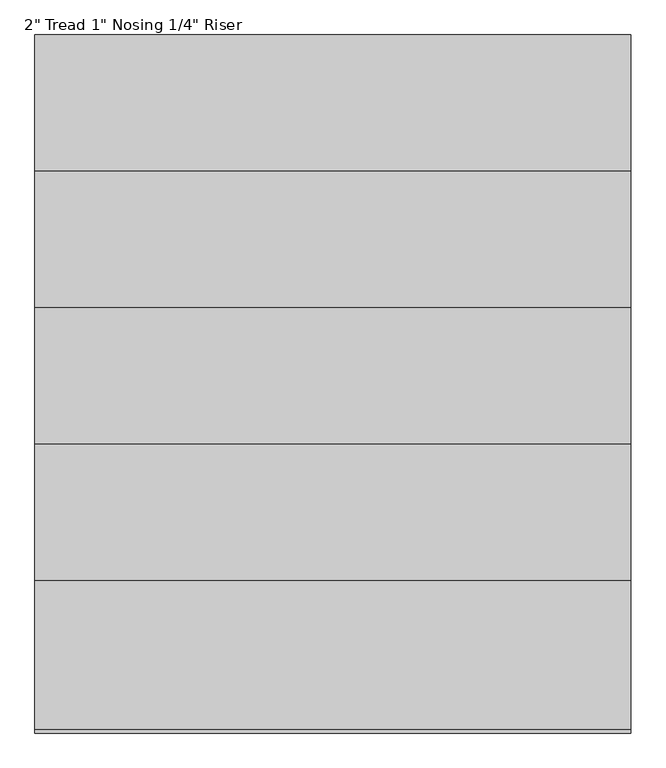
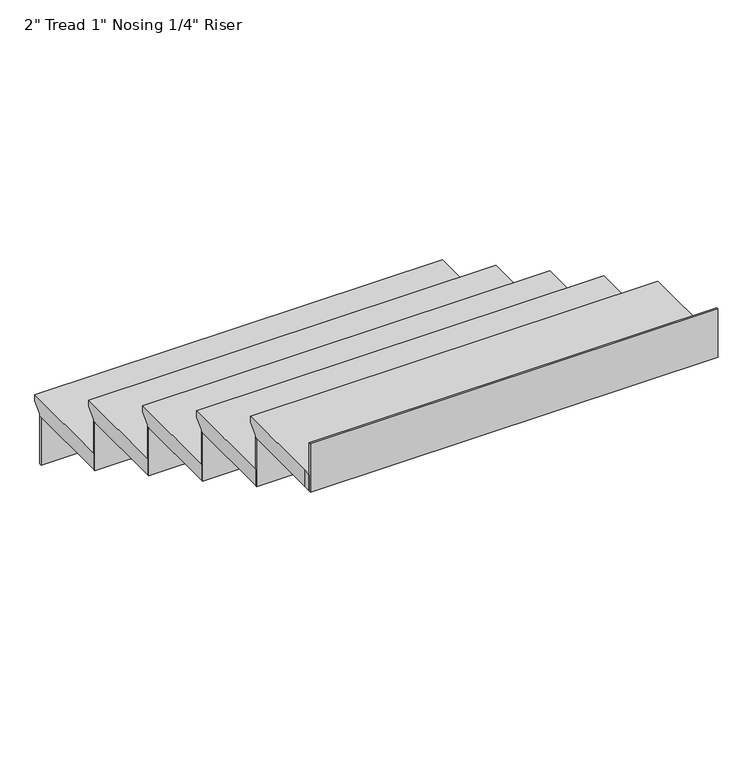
"""IFC4 building model written with IfcOpenShell, lengths in millimetres: stair flight geometry."""

from ifc_helpers import new_model, si_unit, origin, place, context, project, spatial, faceted_brep, source, transform, mapped, element, save


def stair_flight_300c26f1(model_context):
    return source(origin(), model_context, "Body", "Brep", [
        faceted_brep([(18450.2726301, 7776.9746638, 6534.15), (18450.2726301, 7776.9746638, 6553.2), (19669.4726301, 7776.9746638, 6553.2), (19669.4726301, 7776.9746638, 6534.15), (18450.2726301, 7751.5746638, 6508.75), (19669.4726301, 7751.5746638, 6508.75), (18450.2726301, 7472.1746638, 6553.2), (19669.4726301, 7472.1746638, 6553.2), (19669.4726301, 7751.5746638, 6502.4), (19669.4726301, 7472.1746638, 6502.4), (18450.2726301, 7472.1746638, 6502.4), (18450.2726301, 7751.5746638, 6502.4)], [[[0, 1, 2, 3]], [[4, 0, 3, 5]], [[2, 1, 6, 7]], [[8, 9, 10, 11]], [[2, 7, 9, 8, 5, 3]], [[8, 11, 4, 5]], [[6, 1, 0, 4, 11, 10]], [[7, 6, 10, 9]]]),
        faceted_brep([(18450.2726301, 7751.5746638, 6502.4), (18450.2726301, 7751.5746638, 6350.0), (18450.2726301, 7745.2246638, 6350.0), (18450.2726301, 7745.2246638, 6502.4), (19669.4726301, 7751.5746638, 6502.4), (19669.4726301, 7745.2246638, 6502.4), (19669.4726301, 7745.2246638, 6350.0), (19669.4726301, 7751.5746638, 6350.0)], [[[0, 1, 2, 3]], [[4, 5, 6, 7]], [[1, 0, 4, 7]], [[2, 1, 7, 6]], [[3, 2, 6, 5]], [[0, 3, 5, 4]]]),
        faceted_brep([(18450.2726301, 7472.1746638, 6654.8), (18450.2726301, 7472.1746638, 6502.4), (18450.2726301, 7465.8246638, 6502.4), (18450.2726301, 7465.8246638, 6654.8), (19669.4726301, 7472.1746638, 6654.8), (19669.4726301, 7465.8246638, 6654.8), (19669.4726301, 7465.8246638, 6502.4), (19669.4726301, 7472.1746638, 6502.4)], [[[0, 1, 2, 3]], [[4, 5, 6, 7]], [[1, 0, 4, 7]], [[2, 1, 7, 6]], [[3, 2, 6, 5]], [[0, 3, 5, 4]]]),
        faceted_brep([(19669.4726301, 7497.5746638, 6705.6), (18450.2726301, 7497.5746638, 6705.6), (18450.2726301, 7192.7746638, 6705.6), (19669.4726301, 7192.7746638, 6705.6), (19669.4726301, 7472.1746638, 6654.8), (19669.4726301, 7192.7746638, 6654.8), (18450.2726301, 7192.7746638, 6654.8), (18450.2726301, 7472.1746638, 6654.8), (19669.4726301, 7472.1746638, 6661.15), (19669.4726301, 7497.5746638, 6686.55), (18450.2726301, 7472.1746638, 6661.15), (18450.2726301, 7497.5746638, 6686.55)], [[[0, 1, 2, 3]], [[4, 5, 6, 7]], [[0, 3, 5, 4, 8, 9]], [[4, 7, 10, 8]], [[2, 1, 11, 10, 7, 6]], [[3, 2, 6, 5]], [[11, 1, 0, 9]], [[10, 11, 9, 8]]]),
        faceted_brep([(18450.2726301, 7192.7746638, 6807.2), (18450.2726301, 7192.7746638, 6654.8), (18450.2726301, 7186.4246638, 6654.8), (18450.2726301, 7186.4246638, 6807.2), (19669.4726301, 7192.7746638, 6807.2), (19669.4726301, 7186.4246638, 6807.2), (19669.4726301, 7186.4246638, 6654.8), (19669.4726301, 7192.7746638, 6654.8)], [[[0, 1, 2, 3]], [[4, 5, 6, 7]], [[1, 0, 4, 7]], [[2, 1, 7, 6]], [[3, 2, 6, 5]], [[0, 3, 5, 4]]]),
        faceted_brep([(19669.4726301, 7218.1746638, 6858.0), (18450.2726301, 7218.1746638, 6858.0), (18450.2726301, 6913.3746638, 6858.0), (19669.4726301, 6913.3746638, 6858.0), (19669.4726301, 7192.7746638, 6807.2), (19669.4726301, 6913.3746638, 6807.2), (18450.2726301, 6913.3746638, 6807.2), (18450.2726301, 7192.7746638, 6807.2), (19669.4726301, 7192.7746638, 6813.55), (19669.4726301, 7218.1746638, 6838.95), (18450.2726301, 7192.7746638, 6813.55), (18450.2726301, 7218.1746638, 6838.95)], [[[0, 1, 2, 3]], [[4, 5, 6, 7]], [[0, 3, 5, 4, 8, 9]], [[4, 7, 10, 8]], [[2, 1, 11, 10, 7, 6]], [[3, 2, 6, 5]], [[11, 1, 0, 9]], [[10, 11, 9, 8]]]),
        faceted_brep([(18450.2726301, 6913.3746638, 6959.6), (18450.2726301, 6913.3746638, 6807.2), (18450.2726301, 6907.0246638, 6807.2), (18450.2726301, 6907.0246638, 6959.6), (19669.4726301, 6913.3746638, 6959.6), (19669.4726301, 6907.0246638, 6959.6), (19669.4726301, 6907.0246638, 6807.2), (19669.4726301, 6913.3746638, 6807.2)], [[[0, 1, 2, 3]], [[4, 5, 6, 7]], [[1, 0, 4, 7]], [[2, 1, 7, 6]], [[3, 2, 6, 5]], [[0, 3, 5, 4]]]),
        faceted_brep([(19669.4726301, 6938.7746638, 7010.4), (18450.2726301, 6938.7746638, 7010.4), (18450.2726301, 6633.9746638, 7010.4), (19669.4726301, 6633.9746638, 7010.4), (19669.4726301, 6913.3746638, 6959.6), (19669.4726301, 6633.9746638, 6959.6), (18450.2726301, 6633.9746638, 6959.6), (18450.2726301, 6913.3746638, 6959.6), (19669.4726301, 6913.3746638, 6965.95), (19669.4726301, 6938.7746638, 6991.35), (18450.2726301, 6913.3746638, 6965.95), (18450.2726301, 6938.7746638, 6991.35)], [[[0, 1, 2, 3]], [[4, 5, 6, 7]], [[0, 3, 5, 4, 8, 9]], [[4, 7, 10, 8]], [[2, 1, 11, 10, 7, 6]], [[3, 2, 6, 5]], [[11, 1, 0, 9]], [[10, 11, 9, 8]]]),
        faceted_brep([(18450.2726301, 6354.5746638, 7264.4), (18450.2726301, 6354.5746638, 7112.0), (18450.2726301, 6348.2246638, 7112.0), (18450.2726301, 6348.2246638, 7264.4), (19669.4726301, 6354.5746638, 7264.4), (19669.4726301, 6348.2246638, 7264.4), (19669.4726301, 6348.2246638, 7112.0), (19669.4726301, 6354.5746638, 7112.0)], [[[0, 1, 2, 3]], [[4, 5, 6, 7]], [[1, 0, 4, 7]], [[2, 1, 7, 6]], [[3, 2, 6, 5]], [[0, 3, 5, 4]]]),
        faceted_brep([(18450.2726301, 6633.9746638, 7112.0), (18450.2726301, 6633.9746638, 6959.6), (18450.2726301, 6627.6246638, 6959.6), (18450.2726301, 6627.6246638, 7112.0), (19669.4726301, 6633.9746638, 7112.0), (19669.4726301, 6627.6246638, 7112.0), (19669.4726301, 6627.6246638, 6959.6), (19669.4726301, 6633.9746638, 6959.6)], [[[0, 1, 2, 3]], [[4, 5, 6, 7]], [[1, 0, 4, 7]], [[2, 1, 7, 6]], [[3, 2, 6, 5]], [[0, 3, 5, 4]]]),
        faceted_brep([(19669.4726301, 6354.5746638, 7162.8), (19669.4726301, 6379.9746638, 7162.8), (19669.4726301, 6659.3746638, 7162.8), (18450.2726301, 6659.3746638, 7162.8), (18450.2726301, 6379.9746638, 7162.8), (18450.2726301, 6354.5746638, 7162.8), (19669.4726301, 6379.9746638, 7112.0), (19669.4726301, 6354.5746638, 7112.0), (18450.2726301, 6354.5746638, 7112.0), (18450.2726301, 6379.9746638, 7112.0), (18450.2726301, 6633.9746638, 7112.0), (19669.4726301, 6633.9746638, 7112.0), (19669.4726301, 6633.9746638, 7118.35), (19669.4726301, 6659.3746638, 7143.75), (18450.2726301, 6633.9746638, 7118.35), (18450.2726301, 6659.3746638, 7143.75)], [[[0, 1, 2, 3, 4, 5]], [[6, 7, 8, 9, 10, 11]], [[1, 0, 7, 6]], [[2, 1, 6, 11, 12, 13]], [[11, 10, 14, 12]], [[4, 3, 15, 14, 10, 9]], [[5, 4, 9, 8]], [[0, 5, 8, 7]], [[15, 3, 2, 13]], [[14, 15, 13, 12]]]),
    ])


if __name__ == "__main__":
    model = new_model("IFC4")
    model_context = context("Model", 3, world=origin())
    ifc_project = project(units=[si_unit("LENGTHUNIT", "METRE", prefix="MILLI")], contexts=[model_context])
    site = spatial("IfcSite", under=ifc_project)
    building = spatial("IfcBuilding", under=site)
    placement = place(None, origin())
    stair_flight_shape = stair_flight_300c26f1(model_context)
    element("IfcStairFlight", 1, ObjectType="2\" Tread 1\" Nosing 1/4\" Riser", at=placement, inside=building, context=model_context, shape_type="MappedRepresentation", body=[
        mapped(stair_flight_shape, transform((0.0, 0.0, 0.0), x_axis=(1.0, 0.0, 0.0), y_axis=(0.0, 1.0, 0.0), z_axis=(0.0, 0.0, 1.0))),
    ])
    save(model, "model.ifc")
